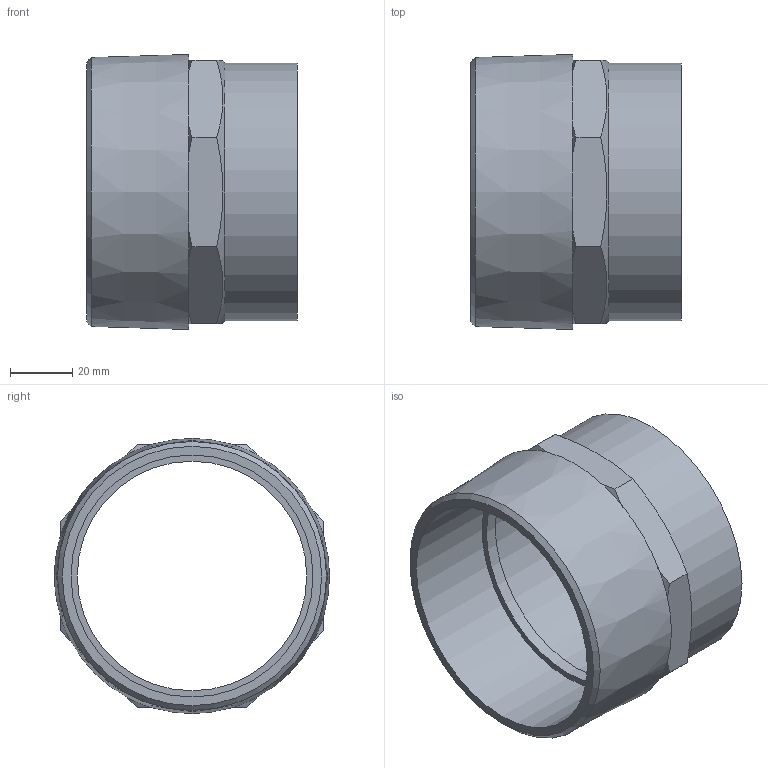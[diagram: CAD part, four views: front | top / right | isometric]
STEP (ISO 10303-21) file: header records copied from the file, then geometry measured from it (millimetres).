
FILE_DESCRIPTION((''),'2;1');
FILE_NAME('\\Lg50001\Groups\SANHA Legnica\Engineering\Public\RYSUNKI\SANHA POLSKA\4243G\step\14243_76-3(4).stp','2008-08-27T12:59:05',('pajchrowski'),(''),'Autodesk Inventor 2008','Autodesk Inventor 2008','');
FILE_SCHEMA(('AUTOMOTIVE_DESIGN { 1 0 10303 214 1 1 1 1 }'));
Length unit declared in the file: millimetre
Products named in the file (1): 14243_76-3(4)
Bounding box: 68 x 88.67 x 88.67 mm (x, y, z)
Volume: 79135.2 mm3; surface area: 37923.1 mm2
Topology: 1 solids, 1 shells, 43 faces, 99 edges, 60 vertices
Faces by surface type: plane 20, cylinder 12, cone 11
Full cylindrical faces by diameter (mm): 74 x1, 76.1 x1, 78 x1, 83 x1
Entity records: 1164 total; most frequent: CARTESIAN_POINT 240, DIRECTION 196, ORIENTED_EDGE 180, EDGE_CURVE 90, AXIS2_PLACEMENT_3D 86, VERTEX_POINT 58, EDGE_LOOP 54, FACE_OUTER_BOUND 43
